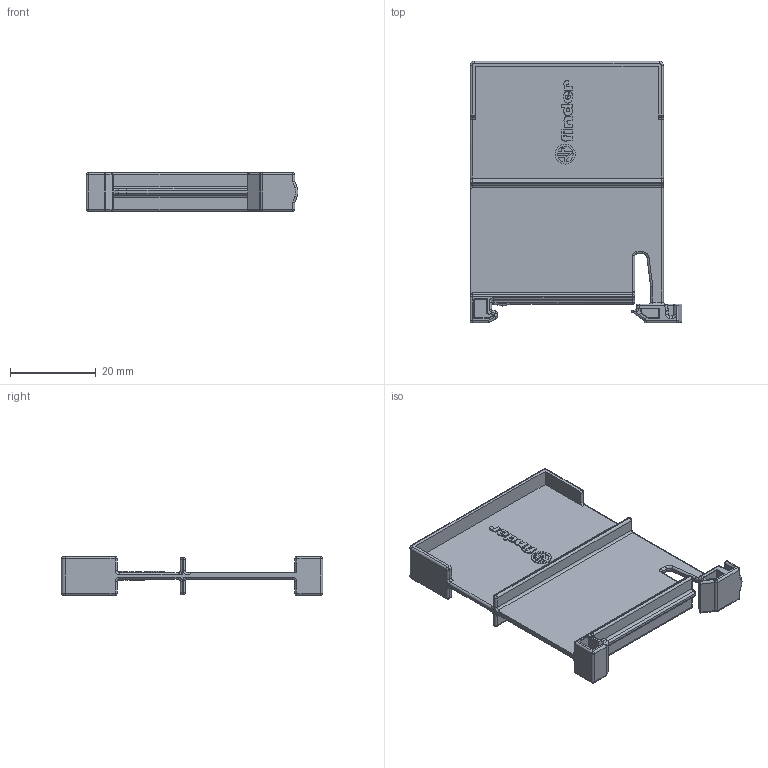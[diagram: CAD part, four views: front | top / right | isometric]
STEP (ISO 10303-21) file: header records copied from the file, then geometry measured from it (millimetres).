
FILE_DESCRIPTION( ( 'Unknown' ), '1' );
FILE_NAME( 'C:/Users/pdellaca/Desktop/Carla Distanziale 22/180791 - 02009.stp', 'Unknown', ( 'Unknown' ), ( 'Unknown' ), 'PSStep 15.0.49', 'Unknown', ' ' );
FILE_SCHEMA( ( 'AUTOMOTIVE_DESIGN { 1 0 10303 214 1 1 1 1 }' ) );
Length unit declared in the file: millimetre
Products named in the file (1): 1
Bounding box: 49.29 x 60.8 x 9 mm (x, y, z)
Volume: 5540.8 mm3; surface area: 8167.1 mm2
Topology: 1 solids, 1 shells, 586 faces, 1391 edges, 771 vertices
Faces by surface type: cylinder 256, plane 182, torus 72, sphere 55, extrusion 11, bspline 10
Full cylindrical faces by diameter (mm): 4.6 x1
Entity records: 22735 total; most frequent: CARTESIAN_POINT 4717, DIRECTION 2989, ORIENTED_EDGE 2642, EDGE_CURVE 1321, AXIS2_PLACEMENT_3D 1133, VERTEX_POINT 770, VECTOR 723, LINE 712
